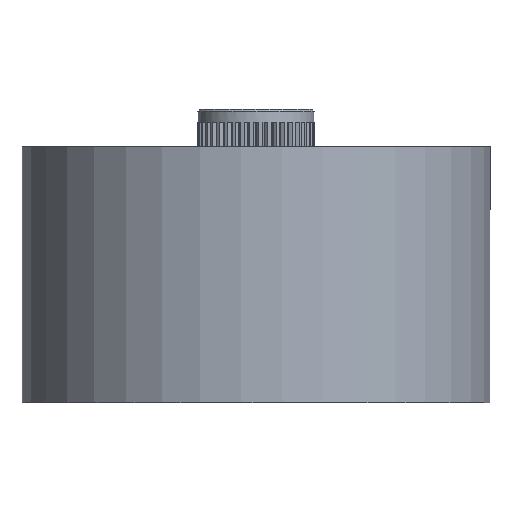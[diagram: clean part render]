
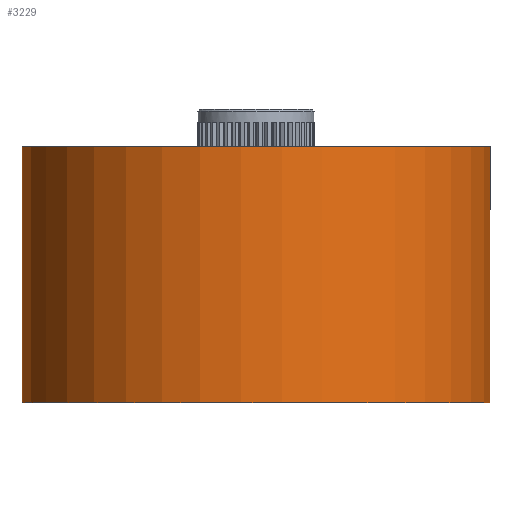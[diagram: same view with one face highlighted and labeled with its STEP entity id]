
A CAD part, front view. The second image highlights one B-rep face of the part: STEP entity #3229.
In plain terms, the highlighted cylindrical face has radius 16 mm (diameter 32 mm), a full revolution.
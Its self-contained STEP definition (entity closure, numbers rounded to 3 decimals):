
#2368=CARTESIAN_POINT('',(8.884,13.307,10.856));
#2369=VERTEX_POINT('',#2368);
#2370=CARTESIAN_POINT('',(0.0,0.0,10.856));
#2371=DIRECTION('',(0.0,0.0,-1.0));
#2372=DIRECTION('',(-0.555,-0.832,0.0));
#2373=AXIS2_PLACEMENT_3D('',#2370,#2371,#2372);
#2374=CIRCLE('',#2373,16.0);
#2375=EDGE_CURVE('',#2369,#2369,#2374,.F.);
#3210=CARTESIAN_POINT('',(0.0,0.0,-6.604));
#3211=DIRECTION('',(0.0,0.0,1.0));
#3212=DIRECTION('',(-0.555,-0.832,0.0));
#3213=AXIS2_PLACEMENT_3D('',#3210,#3211,#3212);
#3214=CYLINDRICAL_SURFACE('',#3213,16.0);
#3215=ORIENTED_EDGE('',*,*,#2375,.F.);
#3216=EDGE_LOOP('',(#3215));
#3217=FACE_OUTER_BOUND('',#3216,.T.);
#3218=CARTESIAN_POINT('',(8.884,13.307,-6.604));
#3219=VERTEX_POINT('',#3218);
#3220=CARTESIAN_POINT('',(0.0,0.0,-6.604));
#3221=DIRECTION('',(0.0,0.0,1.0));
#3222=DIRECTION('',(-0.555,-0.832,0.0));
#3223=AXIS2_PLACEMENT_3D('',#3220,#3221,#3222);
#3224=CIRCLE('',#3223,16.0);
#3225=EDGE_CURVE('',#3219,#3219,#3224,.F.);
#3226=ORIENTED_EDGE('',*,*,#3225,.F.);
#3227=EDGE_LOOP('',(#3226));
#3228=FACE_BOUND('',#3227,.T.);
#3229=ADVANCED_FACE('',(#3217,#3228),#3214,.T.);
